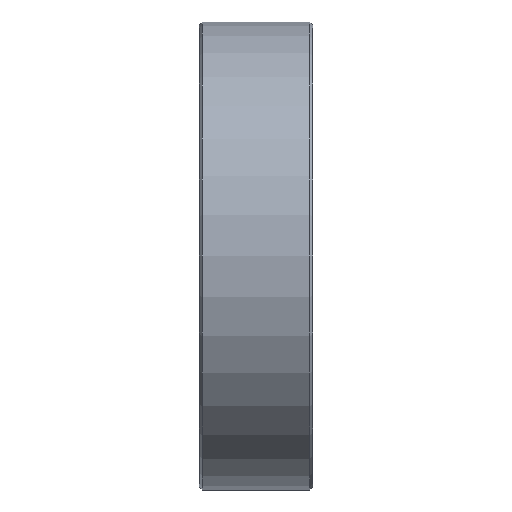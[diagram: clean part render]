
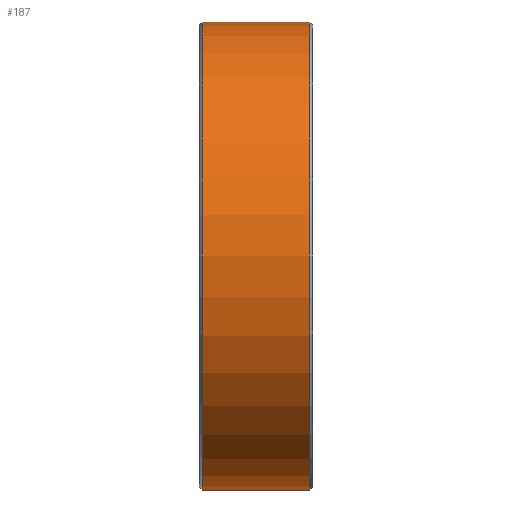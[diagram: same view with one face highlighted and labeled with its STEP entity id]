
A CAD part, front view. The second image highlights one B-rep face of the part: STEP entity #187.
In plain terms, the highlighted cylindrical face has radius 16.5 mm (diameter 33 mm), a partial arc.
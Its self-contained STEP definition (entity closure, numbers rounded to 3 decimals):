
#3 = VERTEX_POINT ( 'NONE', #391 ) ;
#7 = EDGE_CURVE ( 'NONE', #292, #176, #164, .T. ) ;
#20 = DIRECTION ( 'NONE',  ( -1., 0., 0. ) ) ;
#39 = CARTESIAN_POINT ( 'NONE',  ( 7.8, 0., 0. ) ) ;
#57 = CARTESIAN_POINT ( 'NONE',  ( 0., 0., 0. ) ) ;
#70 = LINE ( 'NONE', #209, #324 ) ;
#95 = DIRECTION ( 'NONE',  ( 0., 0., 1. ) ) ;
#110 = ORIENTED_EDGE ( 'NONE', *, *, #7, .F. ) ;
#111 = ORIENTED_EDGE ( 'NONE', *, *, #650, .T. ) ;
#164 = CIRCLE ( 'NONE', #178, 16.5 ) ;
#176 = VERTEX_POINT ( 'NONE', #310 ) ;
#178 = AXIS2_PLACEMENT_3D ( 'NONE', #556, #662, #291 ) ;
#187 = ADVANCED_FACE ( 'NONE', ( #226 ), #491, .T. ) ;
#191 = CIRCLE ( 'NONE', #313, 16.5 ) ;
#209 = CARTESIAN_POINT ( 'NONE',  ( 0., 0., -16.5 ) ) ;
#226 = FACE_OUTER_BOUND ( 'NONE', #479, .T. ) ;
#291 = DIRECTION ( 'NONE',  ( 0., 0., 1. ) ) ;
#292 = VERTEX_POINT ( 'NONE', #610 ) ;
#310 = CARTESIAN_POINT ( 'NONE',  ( 0.2, 0., 16.5 ) ) ;
#313 = AXIS2_PLACEMENT_3D ( 'NONE', #39, #342, #661 ) ;
#324 = VECTOR ( 'NONE', #455, 1000. ) ;
#328 = CARTESIAN_POINT ( 'NONE',  ( 0., 0., 16.5 ) ) ;
#336 = EDGE_CURVE ( 'NONE', #3, #449, #191, .T. ) ;
#342 = DIRECTION ( 'NONE',  ( -1., 0., 0. ) ) ;
#359 = DIRECTION ( 'NONE',  ( -1., 0., 0. ) ) ;
#365 = CARTESIAN_POINT ( 'NONE',  ( 7.8, 0., 16.5 ) ) ;
#391 = CARTESIAN_POINT ( 'NONE',  ( 7.8, 0., -16.5 ) ) ;
#393 = VECTOR ( 'NONE', #20, 1000. ) ;
#411 = LINE ( 'NONE', #328, #393 ) ;
#449 = VERTEX_POINT ( 'NONE', #365 ) ;
#455 = DIRECTION ( 'NONE',  ( -1., 0., 0. ) ) ;
#479 = EDGE_LOOP ( 'NONE', ( #530, #664, #111, #110 ) ) ;
#491 = CYLINDRICAL_SURFACE ( 'NONE', #608, 16.5 ) ;
#530 = ORIENTED_EDGE ( 'NONE', *, *, #540, .F. ) ;
#540 = EDGE_CURVE ( 'NONE', #3, #292, #70, .T. ) ;
#556 = CARTESIAN_POINT ( 'NONE',  ( 0.2, 0., 0. ) ) ;
#608 = AXIS2_PLACEMENT_3D ( 'NONE', #57, #359, #95 ) ;
#610 = CARTESIAN_POINT ( 'NONE',  ( 0.2, 0., -16.5 ) ) ;
#650 = EDGE_CURVE ( 'NONE', #449, #176, #411, .T. ) ;
#661 = DIRECTION ( 'NONE',  ( 0., 0., 1. ) ) ;
#662 = DIRECTION ( 'NONE',  ( -1., 0., 0. ) ) ;
#664 = ORIENTED_EDGE ( 'NONE', *, *, #336, .T. ) ;
